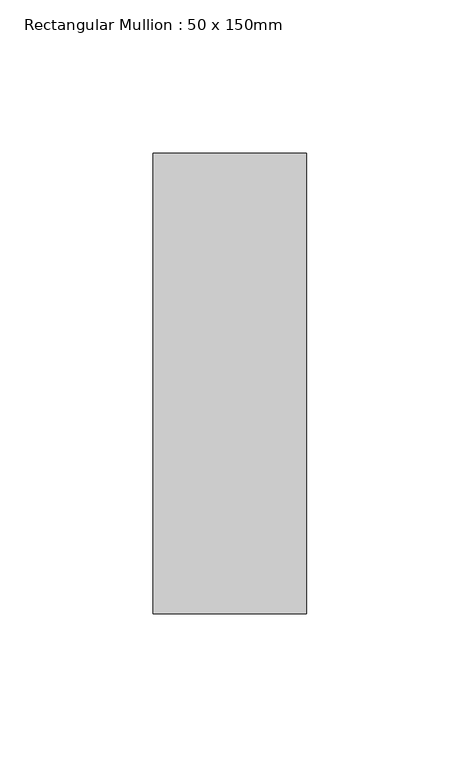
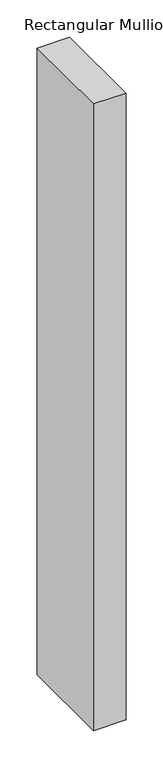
"""IFC4 building model written with IfcOpenShell, lengths in millimetres: member geometry, Rectangular Mullion : 50 x 150mm."""

from ifc_helpers import new_model, si_unit, frame, origin, place, context, project, spatial, polyline, outline, extrude, source, transform, mapped, element, save


def rectangular_mullion_50_x_150mm_1d4ffcc8(model_context):
    return source(origin(), model_context, "Body", "SweptSolid", [
        extrude(outline(polyline([(25.0, 75.0), (25.0, -75.0), (-25.0, -75.0), (-25.0, 75.0), (25.0, 75.0)])), frame((0.0, 0.0, -1021.5244596), z_axis=(0.0, 0.0, 1.0), x_axis=(1.0, 0.0, 0.0)), (0.0, 0.0, 1.0), 1021.5244596),
    ])


if __name__ == "__main__":
    model = new_model("IFC4")
    model_context = context("Model", 3, world=origin())
    ifc_project = project(units=[si_unit("LENGTHUNIT", "METRE", prefix="MILLI")], contexts=[model_context])
    site = spatial("IfcSite", under=ifc_project)
    building = spatial("IfcBuilding", under=site)
    placement = place(None, origin())
    rectangular_mullion_50_x_150mm_shape = rectangular_mullion_50_x_150mm_1d4ffcc8(model_context)
    element("IfcMember", 1, ObjectType="Rectangular Mullion : 50 x 150mm", at=placement, inside=building, context=model_context, shape_type="MappedRepresentation", body=[
        mapped(rectangular_mullion_50_x_150mm_shape, transform((0.0, 0.0, 0.0), x_axis=(1.0, 0.0, 0.0), y_axis=(0.0, 1.0, 0.0), z_axis=(0.0, 0.0, 1.0))),
    ])
    save(model, "model.ifc")
